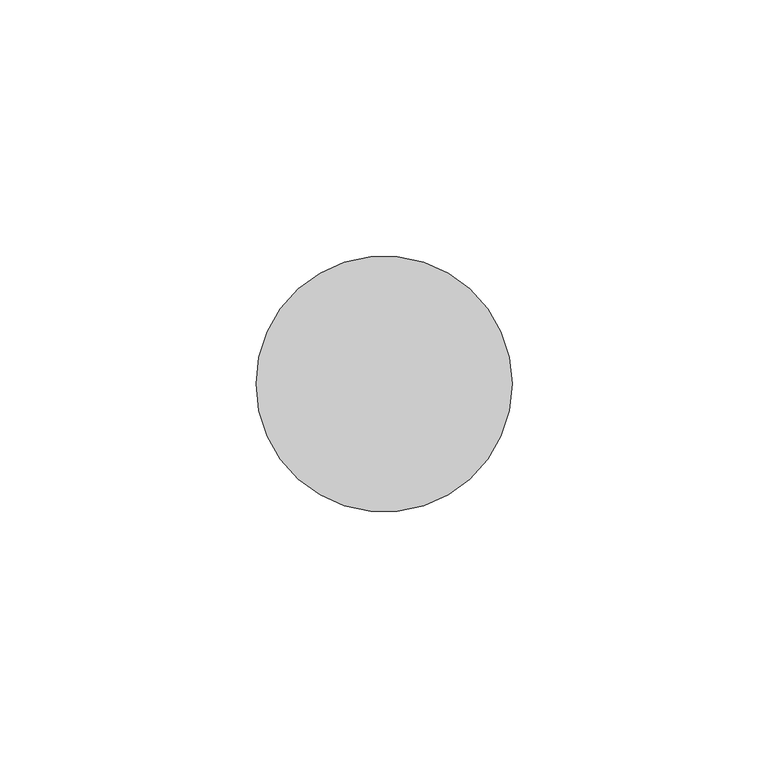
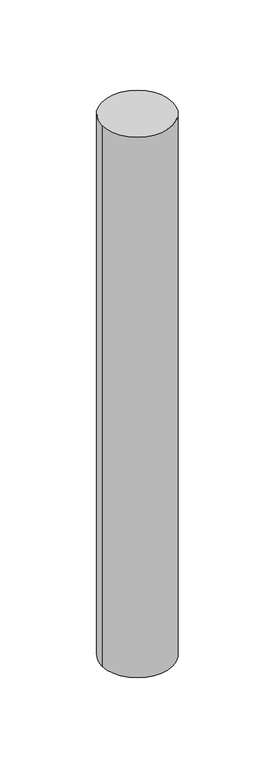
"""IFC4 building model written with IfcOpenShell, lengths in millimetres: member geometry, 圓形豎框 : 25mm 半徑."""

from ifc_helpers import new_model, si_unit, point, frame, origin, origin_2d, place, context, project, spatial, circle_curve, trimmed, segment, composite_curve, outline, extrude, source, transform, mapped, element, save


def member_e576f25c(model_context):
    return source(origin(), model_context, "Body", "SweptSolid", [
        extrude(outline(composite_curve([segment(trimmed(circle_curve(origin_2d(), 25.0), [point((25.0, 0.0))], [point((-25.0, 0.0))], False, "CARTESIAN"), True, "CONTINUOUS"), segment(trimmed(circle_curve(origin_2d(), 25.0), [point((-25.0, 0.0))], [point((25.0, 0.0))], False, "CARTESIAN"), True, "CONTINUOUS")], self_intersect=False)), frame((0.0, 0.0, -403.7217255), z_axis=(0.0, 0.0, 1.0), x_axis=(1.0, 0.0, 0.0)), (0.0, 0.0, 1.0), 403.7217255),
    ])


if __name__ == "__main__":
    model = new_model("IFC4")
    model_context = context("Model", 3, world=origin())
    ifc_project = project(units=[si_unit("LENGTHUNIT", "METRE", prefix="MILLI")], contexts=[model_context])
    site = spatial("IfcSite", under=ifc_project)
    building = spatial("IfcBuilding", under=site)
    placement = place(None, origin())
    member_shape = member_e576f25c(model_context)
    element("IfcMember", 1, ObjectType="圓形豎框 : 25mm 半徑", at=placement, inside=building, context=model_context, shape_type="MappedRepresentation", body=[
        mapped(member_shape, transform((0.0, 0.0, 0.0), x_axis=(1.0, 0.0, 0.0), y_axis=(0.0, 1.0, 0.0), z_axis=(0.0, 0.0, 1.0))),
    ])
    save(model, "model.ifc")
